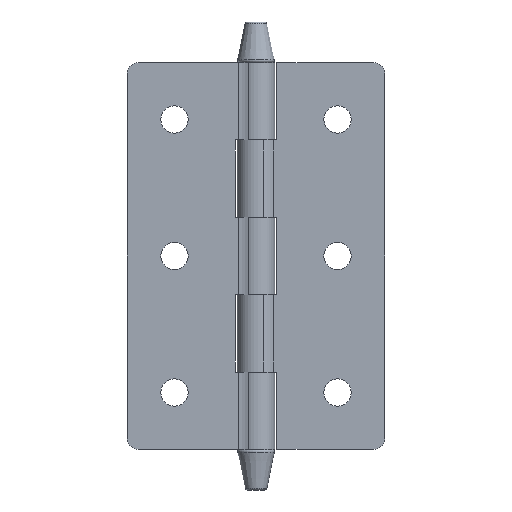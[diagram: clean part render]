
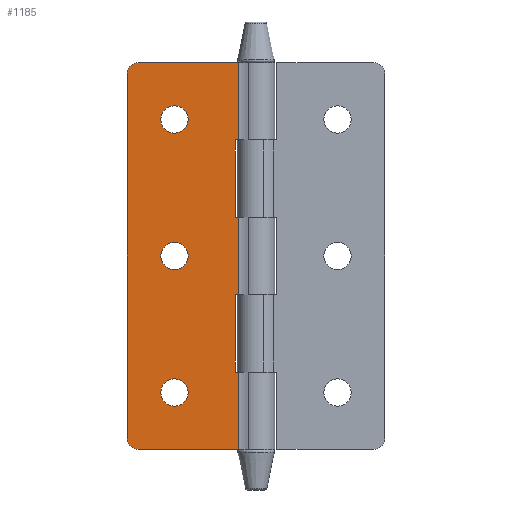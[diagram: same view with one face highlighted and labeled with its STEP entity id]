
A CAD part, front view. The second image highlights one B-rep face of the part: STEP entity #1185.
In plain terms, the highlighted planar face has unit normal (0, -1, 0).
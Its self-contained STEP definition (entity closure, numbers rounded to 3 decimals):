
#31=FACE_BOUND('',#186,.T.);
#32=FACE_BOUND('',#187,.T.);
#33=FACE_BOUND('',#188,.T.);
#110=FACE_OUTER_BOUND('',#185,.T.);
#185=EDGE_LOOP('',(#925,#926,#927,#928,#929,#930,#931,#932,#933,#934,#935,
#936,#937,#938));
#186=EDGE_LOOP('',(#939));
#187=EDGE_LOOP('',(#940));
#188=EDGE_LOOP('',(#941));
#277=CIRCLE('',#1283,1.8);
#278=CIRCLE('',#1285,1.8);
#279=CIRCLE('',#1287,1.8);
#280=CIRCLE('',#1289,1.5);
#281=CIRCLE('',#1292,1.5);
#318=LINE('',#1750,#414);
#322=LINE('',#1767,#418);
#326=LINE('',#1782,#422);
#328=LINE('',#1787,#424);
#332=LINE('',#1804,#428);
#336=LINE('',#1819,#432);
#339=LINE('',#1826,#435);
#340=LINE('',#1829,#436);
#343=LINE('',#1835,#439);
#363=LINE('',#1909,#459);
#365=LINE('',#1913,#461);
#366=LINE('',#1915,#462);
#414=VECTOR('',#1374,0.459);
#418=VECTOR('',#1388,0.459);
#422=VECTOR('',#1402,10.2);
#424=VECTOR('',#1406,0.459);
#428=VECTOR('',#1420,0.459);
#432=VECTOR('',#1434,10.2);
#435=VECTOR('',#1441,10.2);
#436=VECTOR('',#1444,10.2);
#439=VECTOR('',#1451,10.2);
#459=VECTOR('',#1537,48.);
#461=VECTOR('',#1541,13.209);
#462=VECTOR('',#1544,13.209);
#510=VERTEX_POINT('',#1748);
#511=VERTEX_POINT('',#1749);
#518=VERTEX_POINT('',#1765);
#519=VERTEX_POINT('',#1766);
#526=VERTEX_POINT('',#1785);
#527=VERTEX_POINT('',#1786);
#534=VERTEX_POINT('',#1802);
#535=VERTEX_POINT('',#1803);
#543=VERTEX_POINT('',#1824);
#544=VERTEX_POINT('',#1828);
#561=VERTEX_POINT('',#1893);
#562=VERTEX_POINT('',#1896);
#563=VERTEX_POINT('',#1899);
#564=VERTEX_POINT('',#1902);
#565=VERTEX_POINT('',#1904);
#566=VERTEX_POINT('',#1908);
#567=VERTEX_POINT('',#1912);
#628=EDGE_CURVE('',#510,#511,#318,.T.);
#636=EDGE_CURVE('',#518,#519,#322,.T.);
#644=EDGE_CURVE('',#519,#510,#326,.T.);
#646=EDGE_CURVE('',#526,#527,#328,.T.);
#654=EDGE_CURVE('',#534,#535,#332,.T.);
#662=EDGE_CURVE('',#535,#526,#336,.T.);
#666=EDGE_CURVE('',#543,#527,#339,.T.);
#667=EDGE_CURVE('',#518,#544,#340,.T.);
#671=EDGE_CURVE('',#534,#511,#343,.T.);
#700=EDGE_CURVE('',#561,#561,#277,.T.);
#701=EDGE_CURVE('',#562,#562,#278,.T.);
#702=EDGE_CURVE('',#563,#563,#279,.T.);
#704=EDGE_CURVE('',#564,#565,#280,.T.);
#706=EDGE_CURVE('',#566,#565,#363,.T.);
#708=EDGE_CURVE('',#567,#543,#365,.T.);
#709=EDGE_CURVE('',#566,#567,#281,.T.);
#710=EDGE_CURVE('',#544,#564,#366,.T.);
#925=ORIENTED_EDGE('',*,*,#628,.T.);
#926=ORIENTED_EDGE('',*,*,#671,.F.);
#927=ORIENTED_EDGE('',*,*,#654,.T.);
#928=ORIENTED_EDGE('',*,*,#662,.T.);
#929=ORIENTED_EDGE('',*,*,#646,.T.);
#930=ORIENTED_EDGE('',*,*,#666,.F.);
#931=ORIENTED_EDGE('',*,*,#708,.F.);
#932=ORIENTED_EDGE('',*,*,#709,.F.);
#933=ORIENTED_EDGE('',*,*,#706,.T.);
#934=ORIENTED_EDGE('',*,*,#704,.F.);
#935=ORIENTED_EDGE('',*,*,#710,.F.);
#936=ORIENTED_EDGE('',*,*,#667,.F.);
#937=ORIENTED_EDGE('',*,*,#636,.T.);
#938=ORIENTED_EDGE('',*,*,#644,.T.);
#939=ORIENTED_EDGE('',*,*,#700,.T.);
#940=ORIENTED_EDGE('',*,*,#701,.T.);
#941=ORIENTED_EDGE('',*,*,#702,.T.);
#1137=PLANE('',#1291);
#1185=ADVANCED_FACE('',(#110,#31,#32,#33),#1137,.T.);
#1283=AXIS2_PLACEMENT_3D('',#1894,#1519,#1520);
#1285=AXIS2_PLACEMENT_3D('',#1897,#1523,#1524);
#1287=AXIS2_PLACEMENT_3D('',#1900,#1527,#1528);
#1289=AXIS2_PLACEMENT_3D('',#1905,#1532,#1533);
#1291=AXIS2_PLACEMENT_3D('',#1911,#1539,#1540);
#1292=AXIS2_PLACEMENT_3D('',#1914,#1542,#1543);
#1374=DIRECTION('',(1.,0.,0.));
#1388=DIRECTION('',(-1.,0.,0.));
#1402=DIRECTION('',(0.,0.,1.));
#1406=DIRECTION('',(1.,0.,0.));
#1420=DIRECTION('',(-1.,0.,0.));
#1434=DIRECTION('',(0.,0.,1.));
#1441=DIRECTION('',(0.,0.,-1.));
#1444=DIRECTION('',(0.,0.,-1.));
#1451=DIRECTION('',(0.,0.,-1.));
#1519=DIRECTION('center_axis',(0.,1.,0.));
#1520=DIRECTION('ref_axis',(1.,0.,0.));
#1523=DIRECTION('center_axis',(0.,1.,0.));
#1524=DIRECTION('ref_axis',(1.,0.,0.));
#1527=DIRECTION('center_axis',(0.,1.,0.));
#1528=DIRECTION('ref_axis',(1.,0.,0.));
#1532=DIRECTION('center_axis',(0.,1.,0.));
#1533=DIRECTION('ref_axis',(-0.707,0.,-0.707));
#1537=DIRECTION('',(0.,0.,-1.));
#1539=DIRECTION('center_axis',(0.,-1.,0.));
#1540=DIRECTION('ref_axis',(1.,0.,0.));
#1541=DIRECTION('',(1.,0.,0.));
#1542=DIRECTION('center_axis',(0.,1.,0.));
#1543=DIRECTION('ref_axis',(-0.707,0.,0.707));
#1544=DIRECTION('',(-1.,0.,0.));
#1748=CARTESIAN_POINT('',(-2.75,-2.,-5.1));
#1749=CARTESIAN_POINT('',(-2.291,-2.,-5.1));
#1750=CARTESIAN_POINT('',(-7.125,-2.,-5.1));
#1765=CARTESIAN_POINT('',(-2.291,-2.,-15.3));
#1766=CARTESIAN_POINT('',(-2.75,-2.,-15.3));
#1767=CARTESIAN_POINT('',(-9.875,-2.,-15.3));
#1782=CARTESIAN_POINT('',(-2.75,-2.,-2.55));
#1785=CARTESIAN_POINT('',(-2.75,-2.,15.3));
#1786=CARTESIAN_POINT('',(-2.291,-2.,15.3));
#1787=CARTESIAN_POINT('',(-7.125,-2.,15.3));
#1802=CARTESIAN_POINT('',(-2.291,-2.,5.1));
#1803=CARTESIAN_POINT('',(-2.75,-2.,5.1));
#1804=CARTESIAN_POINT('',(-9.875,-2.,5.1));
#1819=CARTESIAN_POINT('',(-2.75,-2.,7.65));
#1824=CARTESIAN_POINT('',(-2.291,-2.,25.5));
#1826=CARTESIAN_POINT('',(-2.291,-2.,0.));
#1828=CARTESIAN_POINT('',(-2.291,-2.,-25.5));
#1829=CARTESIAN_POINT('',(-2.291,-2.,0.));
#1835=CARTESIAN_POINT('',(-2.291,-2.,0.));
#1893=CARTESIAN_POINT('',(-12.55,-2.,0.));
#1894=CARTESIAN_POINT('Origin',(-10.75,-2.,0.));
#1896=CARTESIAN_POINT('',(-12.55,-2.,-18.));
#1897=CARTESIAN_POINT('Origin',(-10.75,-2.,-18.));
#1899=CARTESIAN_POINT('',(-12.55,-2.,18.));
#1900=CARTESIAN_POINT('Origin',(-10.75,-2.,18.));
#1902=CARTESIAN_POINT('',(-15.5,-2.,-25.5));
#1904=CARTESIAN_POINT('',(-17.,-2.,-24.));
#1905=CARTESIAN_POINT('Origin',(-15.5,-2.,-24.));
#1908=CARTESIAN_POINT('',(-17.,-2.,24.));
#1909=CARTESIAN_POINT('',(-17.,-2.,0.));
#1911=CARTESIAN_POINT('Origin',(-17.,-2.,0.));
#1912=CARTESIAN_POINT('',(-15.5,-2.,25.5));
#1913=CARTESIAN_POINT('',(-17.,-2.,25.5));
#1914=CARTESIAN_POINT('Origin',(-15.5,-2.,24.));
#1915=CARTESIAN_POINT('',(-17.,-2.,-25.5));
